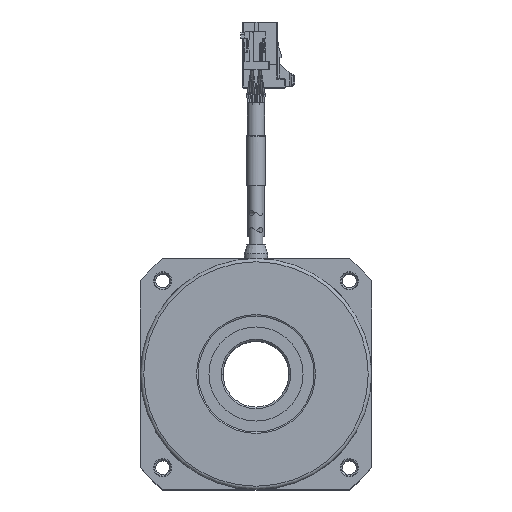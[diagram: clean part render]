
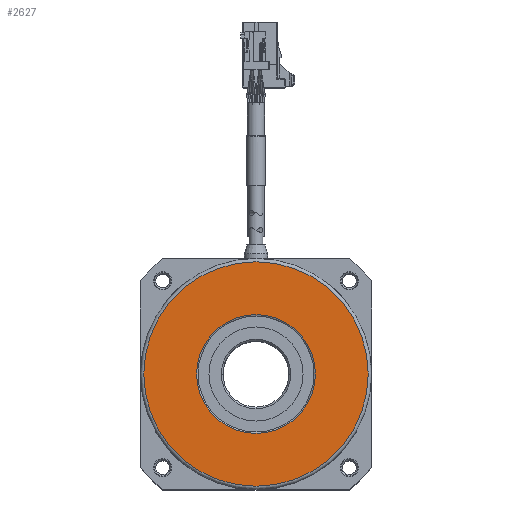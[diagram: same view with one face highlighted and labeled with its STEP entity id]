
A CAD part, top view. The second image highlights one B-rep face of the part: STEP entity #2627.
In plain terms, the highlighted planar face has unit normal (0, 0, 1).
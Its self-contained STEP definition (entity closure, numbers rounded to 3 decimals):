
#2627=ADVANCED_FACE('',(#5618,#5619),#5620,.F.);
#5618=FACE_OUTER_BOUND('',#12535,.T.);
#5619=FACE_BOUND('',#12536,.T.);
#5620=PLANE('',#12537);
#12535=EDGE_LOOP('',(#22810));
#12536=EDGE_LOOP('',(#22811));
#12537=AXIS2_PLACEMENT_3D('',#22812,#22813,#22814);
#22810=ORIENTED_EDGE('',*,*,#29232,.T.);
#22811=ORIENTED_EDGE('',*,*,#29233,.T.);
#22812=CARTESIAN_POINT('',(26.25,0.,45.4));
#22813=DIRECTION('',(0.0,0.0,-1.0));
#22814=DIRECTION('',(-1.0,0.0,0.0));
#29232=EDGE_CURVE('',#35279,#35279,#35280,.F.);
#29233=EDGE_CURVE('',#35281,#35281,#35282,.T.);
#35279=VERTEX_POINT('',#45404);
#35280=CIRCLE('',#45405,34.0);
#35281=VERTEX_POINT('',#45406);
#35282=CIRCLE('',#45407,18.0);
#45404=CARTESIAN_POINT('',(-34.,0.,45.4));
#45405=AXIS2_PLACEMENT_3D('',#51239,#51240,#51241);
#45406=CARTESIAN_POINT('',(-18.,0.,45.4));
#45407=AXIS2_PLACEMENT_3D('',#51242,#51243,#51244);
#51239=CARTESIAN_POINT('',(0.,0.,45.4));
#51240=DIRECTION('',(0.0,0.0,-1.0));
#51241=DIRECTION('',(-1.0,0.0,0.0));
#51242=CARTESIAN_POINT('',(0.,0.,45.4));
#51243=DIRECTION('',(0.0,0.0,-1.0));
#51244=DIRECTION('',(-1.0,0.0,0.0));
